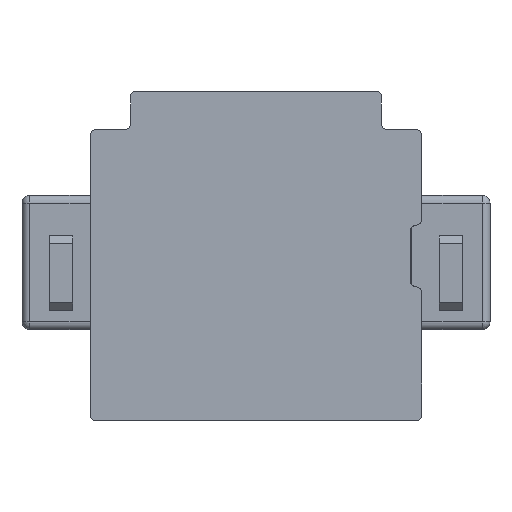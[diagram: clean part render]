
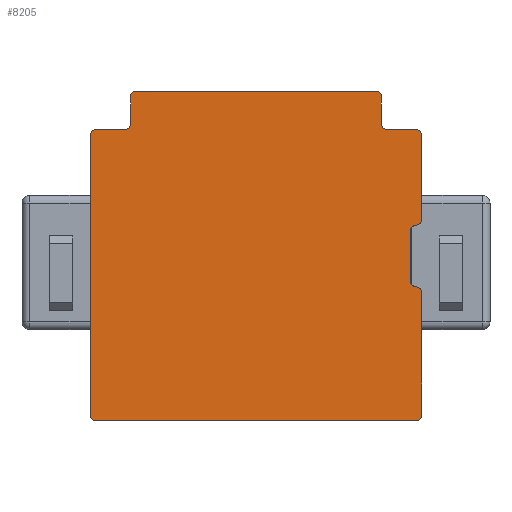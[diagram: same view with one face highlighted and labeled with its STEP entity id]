
A CAD part, front view. The second image highlights one B-rep face of the part: STEP entity #8205.
In plain terms, the highlighted planar face has unit normal (0, -1, 0).
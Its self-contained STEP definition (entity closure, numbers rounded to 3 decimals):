
#163=DIRECTION('',(0.,0.,1.));
#164=VECTOR('',#163,7.3);
#165=CARTESIAN_POINT('',(-3.05,-4.75,-4.155));
#166=LINE('',#165,#164);
#167=DIRECTION('',(1.,0.,0.));
#168=VECTOR('',#167,8.34);
#169=CARTESIAN_POINT('',(-2.9,-4.75,-4.305));
#170=LINE('',#169,#168);
#171=CARTESIAN_POINT('',(-2.9,-4.75,-4.155));
#172=DIRECTION('',(0.,-1.,0.));
#173=DIRECTION('',(-1.,0.,0.));
#174=AXIS2_PLACEMENT_3D('',#171,#172,#173);
#176=CARTESIAN_POINT('',(-2.9,-4.75,3.145));
#177=DIRECTION('',(0.,-1.,0.));
#178=DIRECTION('',(0.,0.,1.));
#179=AXIS2_PLACEMENT_3D('',#176,#177,#178);
#181=CARTESIAN_POINT('',(-2.15,-4.75,3.445));
#182=DIRECTION('',(0.,1.,0.));
#183=DIRECTION('',(1.,0.,0.));
#184=AXIS2_PLACEMENT_3D('',#181,#182,#183);
#186=CARTESIAN_POINT('',(-1.85,-4.75,4.145));
#187=DIRECTION('',(0.,-1.,0.));
#188=DIRECTION('',(0.,0.,1.));
#189=AXIS2_PLACEMENT_3D('',#186,#187,#188);
#191=CARTESIAN_POINT('',(4.39,-4.75,4.145));
#192=DIRECTION('',(0.,-1.,0.));
#193=DIRECTION('',(1.,0.,0.));
#194=AXIS2_PLACEMENT_3D('',#191,#192,#193);
#196=CARTESIAN_POINT('',(4.69,-4.75,3.445));
#197=DIRECTION('',(0.,1.,0.));
#198=DIRECTION('',(0.,0.,-1.));
#199=AXIS2_PLACEMENT_3D('',#196,#197,#198);
#201=CARTESIAN_POINT('',(5.44,-4.75,3.145));
#202=DIRECTION('',(0.,-1.,0.));
#203=DIRECTION('',(1.,0.,0.));
#204=AXIS2_PLACEMENT_3D('',#201,#202,#203);
#206=CARTESIAN_POINT('',(5.44,-4.75,0.945));
#207=DIRECTION('',(0.,-1.,0.));
#208=DIRECTION('',(0.,0.,-1.));
#209=AXIS2_PLACEMENT_3D('',#206,#207,#208);
#211=CARTESIAN_POINT('',(5.44,-4.75,0.645));
#212=DIRECTION('',(0.,1.,0.));
#213=DIRECTION('',(-1.,0.,0.));
#214=AXIS2_PLACEMENT_3D('',#211,#212,#213);
#216=CARTESIAN_POINT('',(5.44,-4.75,-0.655));
#217=DIRECTION('',(0.,1.,0.));
#218=DIRECTION('',(0.,0.,-1.));
#219=AXIS2_PLACEMENT_3D('',#216,#217,#218);
#221=CARTESIAN_POINT('',(5.44,-4.75,-0.955));
#222=DIRECTION('',(0.,-1.,0.));
#223=DIRECTION('',(1.,0.,0.));
#224=AXIS2_PLACEMENT_3D('',#221,#222,#223);
#226=CARTESIAN_POINT('',(5.44,-4.75,-4.155));
#227=DIRECTION('',(0.,-1.,0.));
#228=DIRECTION('',(0.,0.,-1.));
#229=AXIS2_PLACEMENT_3D('',#226,#227,#228);
#251=DIRECTION('',(1.,0.,0.));
#252=VECTOR('',#251,0.75);
#253=CARTESIAN_POINT('',(-2.9,-4.75,3.295));
#254=LINE('',#253,#252);
#271=DIRECTION('',(1.,0.,0.));
#272=VECTOR('',#271,0.75);
#273=CARTESIAN_POINT('',(4.69,-4.75,3.295));
#274=LINE('',#273,#272);
#283=DIRECTION('',(0.,0.,-1.));
#284=VECTOR('',#283,2.2);
#285=CARTESIAN_POINT('',(5.59,-4.75,3.145));
#286=LINE('',#285,#284);
#307=DIRECTION('',(0.,0.,-1.));
#308=VECTOR('',#307,1.3);
#309=CARTESIAN_POINT('',(5.29,-4.75,0.645));
#310=LINE('',#309,#308);
#327=DIRECTION('',(0.,0.,-1.));
#328=VECTOR('',#327,3.2);
#329=CARTESIAN_POINT('',(5.59,-4.75,-0.955));
#330=LINE('',#329,#328);
#371=DIRECTION('',(1.,0.,0.));
#372=VECTOR('',#371,6.24);
#373=CARTESIAN_POINT('',(-1.85,-4.75,4.295));
#374=LINE('',#373,#372);
#391=DIRECTION('',(0.,0.,1.));
#392=VECTOR('',#391,0.7);
#393=CARTESIAN_POINT('',(-2.,-4.75,3.445));
#394=LINE('',#393,#392);
#411=DIRECTION('',(0.,0.,-1.));
#412=VECTOR('',#411,0.7);
#413=CARTESIAN_POINT('',(4.54,-4.75,4.145));
#414=LINE('',#413,#412);
#7263=CARTESIAN_POINT('',(-2.9,-4.75,-4.305));
#7265=VERTEX_POINT('',#7263);
#7266=CARTESIAN_POINT('',(5.44,-4.75,-4.305));
#7267=VERTEX_POINT('',#7266);
#7276=CARTESIAN_POINT('',(-3.05,-4.75,-4.155));
#7277=VERTEX_POINT('',#7276);
#7280=CARTESIAN_POINT('',(-3.05,-4.75,3.145));
#7281=VERTEX_POINT('',#7280);
#7282=CARTESIAN_POINT('',(-2.9,-4.75,3.295));
#7283=VERTEX_POINT('',#7282);
#7284=CARTESIAN_POINT('',(-2.15,-4.75,3.295));
#7285=VERTEX_POINT('',#7284);
#7286=CARTESIAN_POINT('',(-2.,-4.75,3.445));
#7287=VERTEX_POINT('',#7286);
#7288=CARTESIAN_POINT('',(-2.,-4.75,4.145));
#7289=VERTEX_POINT('',#7288);
#7290=CARTESIAN_POINT('',(-1.85,-4.75,4.295));
#7291=VERTEX_POINT('',#7290);
#7292=CARTESIAN_POINT('',(4.39,-4.75,4.295));
#7293=VERTEX_POINT('',#7292);
#7294=CARTESIAN_POINT('',(4.54,-4.75,4.145));
#7295=VERTEX_POINT('',#7294);
#7296=CARTESIAN_POINT('',(4.54,-4.75,3.445));
#7297=VERTEX_POINT('',#7296);
#7298=CARTESIAN_POINT('',(4.69,-4.75,3.295));
#7299=VERTEX_POINT('',#7298);
#7300=CARTESIAN_POINT('',(5.44,-4.75,3.295));
#7301=VERTEX_POINT('',#7300);
#7302=CARTESIAN_POINT('',(5.59,-4.75,3.145));
#7303=VERTEX_POINT('',#7302);
#7304=CARTESIAN_POINT('',(5.59,-4.75,0.945));
#7305=VERTEX_POINT('',#7304);
#7306=CARTESIAN_POINT('',(5.44,-4.75,0.795));
#7307=VERTEX_POINT('',#7306);
#7308=CARTESIAN_POINT('',(5.29,-4.75,0.645));
#7309=VERTEX_POINT('',#7308);
#7310=CARTESIAN_POINT('',(5.29,-4.75,-0.655));
#7311=VERTEX_POINT('',#7310);
#7312=CARTESIAN_POINT('',(5.44,-4.75,-0.805));
#7313=VERTEX_POINT('',#7312);
#7314=CARTESIAN_POINT('',(5.59,-4.75,-0.955));
#7315=VERTEX_POINT('',#7314);
#7316=CARTESIAN_POINT('',(5.59,-4.75,-4.155));
#7317=VERTEX_POINT('',#7316);
#8156=CARTESIAN_POINT('',(2.54,-4.75,-0.005));
#8157=DIRECTION('',(0.,1.,0.));
#8158=DIRECTION('',(0.,0.,1.));
#8159=AXIS2_PLACEMENT_3D('',#8156,#8157,#8158);
#8160=PLANE('',#8159);
#8161=ORIENTED_EDGE('',*,*,#7965,.F.);
#8163=ORIENTED_EDGE('',*,*,#8162,.F.);
#8164=ORIENTED_EDGE('',*,*,#8146,.T.);
#8166=ORIENTED_EDGE('',*,*,#8165,.F.);
#8168=ORIENTED_EDGE('',*,*,#8167,.T.);
#8170=ORIENTED_EDGE('',*,*,#8169,.F.);
#8172=ORIENTED_EDGE('',*,*,#8171,.T.);
#8174=ORIENTED_EDGE('',*,*,#8173,.F.);
#8176=ORIENTED_EDGE('',*,*,#8175,.T.);
#8178=ORIENTED_EDGE('',*,*,#8177,.F.);
#8180=ORIENTED_EDGE('',*,*,#8179,.T.);
#8182=ORIENTED_EDGE('',*,*,#8181,.F.);
#8184=ORIENTED_EDGE('',*,*,#8183,.T.);
#8186=ORIENTED_EDGE('',*,*,#8185,.F.);
#8188=ORIENTED_EDGE('',*,*,#8187,.T.);
#8190=ORIENTED_EDGE('',*,*,#8189,.F.);
#8192=ORIENTED_EDGE('',*,*,#8191,.F.);
#8194=ORIENTED_EDGE('',*,*,#8193,.T.);
#8196=ORIENTED_EDGE('',*,*,#8195,.F.);
#8198=ORIENTED_EDGE('',*,*,#8197,.F.);
#8200=ORIENTED_EDGE('',*,*,#8199,.T.);
#8202=ORIENTED_EDGE('',*,*,#8201,.F.);
#8203=EDGE_LOOP('',(#8161,#8163,#8164,#8166,#8168,#8170,#8172,#8174,#8176,#8178,
#8180,#8182,#8184,#8186,#8188,#8190,#8192,#8194,#8196,#8198,#8200,#8202));
#8204=FACE_OUTER_BOUND('',#8203,.F.);
#8205=ADVANCED_FACE('',(#8204),#8160,.F.);
#175=CIRCLE('',#174,0.15);
#180=CIRCLE('',#179,0.15);
#185=CIRCLE('',#184,0.15);
#190=CIRCLE('',#189,0.15);
#195=CIRCLE('',#194,0.15);
#200=CIRCLE('',#199,0.15);
#205=CIRCLE('',#204,0.15);
#210=CIRCLE('',#209,0.15);
#215=CIRCLE('',#214,0.15);
#220=CIRCLE('',#219,0.15);
#225=CIRCLE('',#224,0.15);
#230=CIRCLE('',#229,0.15);
#7965=EDGE_CURVE('',#7265,#7267,#170,.T.);
#8146=EDGE_CURVE('',#7277,#7281,#166,.T.);
#8162=EDGE_CURVE('',#7277,#7265,#175,.T.);
#8165=EDGE_CURVE('',#7283,#7281,#180,.T.);
#8167=EDGE_CURVE('',#7283,#7285,#254,.T.);
#8169=EDGE_CURVE('',#7287,#7285,#185,.T.);
#8171=EDGE_CURVE('',#7287,#7289,#394,.T.);
#8173=EDGE_CURVE('',#7291,#7289,#190,.T.);
#8175=EDGE_CURVE('',#7291,#7293,#374,.T.);
#8177=EDGE_CURVE('',#7295,#7293,#195,.T.);
#8179=EDGE_CURVE('',#7295,#7297,#414,.T.);
#8181=EDGE_CURVE('',#7299,#7297,#200,.T.);
#8183=EDGE_CURVE('',#7299,#7301,#274,.T.);
#8185=EDGE_CURVE('',#7303,#7301,#205,.T.);
#8187=EDGE_CURVE('',#7303,#7305,#286,.T.);
#8189=EDGE_CURVE('',#7307,#7305,#210,.T.);
#8191=EDGE_CURVE('',#7309,#7307,#215,.T.);
#8193=EDGE_CURVE('',#7309,#7311,#310,.T.);
#8195=EDGE_CURVE('',#7313,#7311,#220,.T.);
#8197=EDGE_CURVE('',#7315,#7313,#225,.T.);
#8199=EDGE_CURVE('',#7315,#7317,#330,.T.);
#8201=EDGE_CURVE('',#7267,#7317,#230,.T.);
